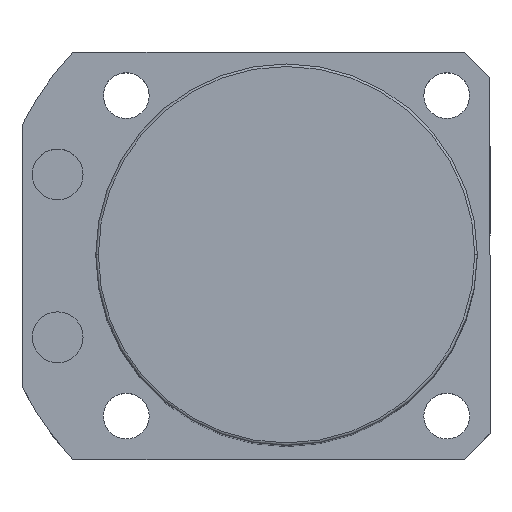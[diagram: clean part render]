
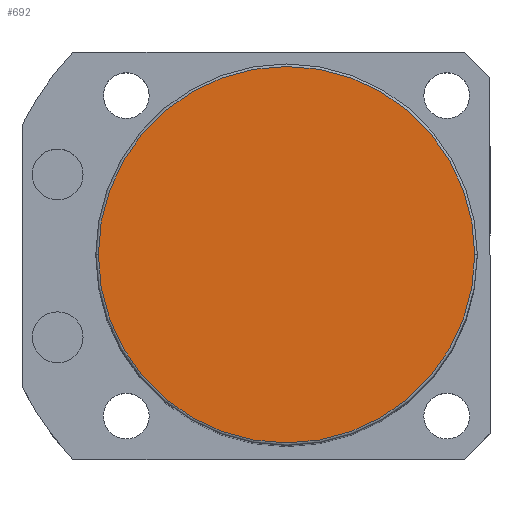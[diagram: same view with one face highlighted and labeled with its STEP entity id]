
A CAD part, top view. The second image highlights one B-rep face of the part: STEP entity #692.
In plain terms, the highlighted planar face has unit normal (0, 0, 1).
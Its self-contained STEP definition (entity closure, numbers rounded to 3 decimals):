
#65 = FACE_OUTER_BOUND ( 'NONE', #2304, .T. ) ;
#188 = CARTESIAN_POINT ( 'NONE',  ( 0., 0., 150.5 ) ) ;
#217 = CARTESIAN_POINT ( 'NONE',  ( 0., 0., 150.5 ) ) ;
#361 = VERTEX_POINT ( 'NONE', #438 ) ;
#368 = DIRECTION ( 'NONE',  ( 0., 0., 1. ) ) ;
#418 = CARTESIAN_POINT ( 'NONE',  ( -37., 0., 150.5 ) ) ;
#426 = AXIS2_PLACEMENT_3D ( 'NONE', #217, #1434, #429 ) ;
#429 = DIRECTION ( 'NONE',  ( 1., 0., 0. ) ) ;
#438 = CARTESIAN_POINT ( 'NONE',  ( 37., 0., 150.5 ) ) ;
#526 = CARTESIAN_POINT ( 'NONE',  ( 0., 0., 150.5 ) ) ;
#692 = ADVANCED_FACE ( 'NONE', ( #65 ), #1845, .T. ) ;
#726 = DIRECTION ( 'NONE',  ( 0., 0., 1. ) ) ;
#735 = VERTEX_POINT ( 'NONE', #418 ) ;
#914 = DIRECTION ( 'NONE',  ( 1., 0., 0. ) ) ;
#1169 = CIRCLE ( 'NONE', #1627, 37. ) ;
#1192 = EDGE_CURVE ( 'NONE', #361, #735, #1655, .T. ) ;
#1424 = ORIENTED_EDGE ( 'NONE', *, *, #2365, .T. ) ;
#1434 = DIRECTION ( 'NONE',  ( 0., 0., 1. ) ) ;
#1627 = AXIS2_PLACEMENT_3D ( 'NONE', #188, #368, #1769 ) ;
#1655 = CIRCLE ( 'NONE', #2577, 37. ) ;
#1769 = DIRECTION ( 'NONE',  ( 1., 0., 0. ) ) ;
#1845 = PLANE ( 'NONE',  #426 ) ;
#1896 = ORIENTED_EDGE ( 'NONE', *, *, #1192, .T. ) ;
#2304 = EDGE_LOOP ( 'NONE', ( #1896, #1424 ) ) ;
#2365 = EDGE_CURVE ( 'NONE', #735, #361, #1169, .T. ) ;
#2577 = AXIS2_PLACEMENT_3D ( 'NONE', #526, #726, #914 ) ;
